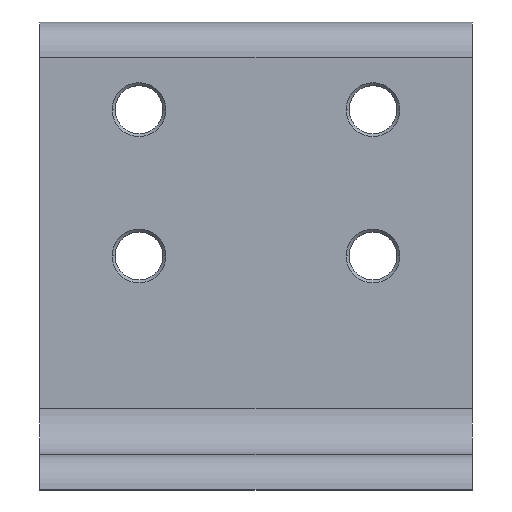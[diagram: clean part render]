
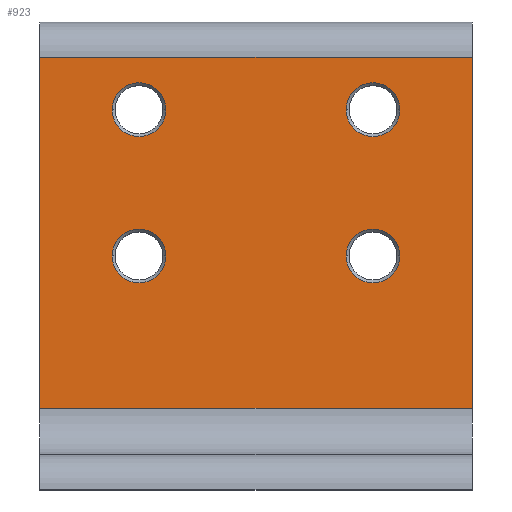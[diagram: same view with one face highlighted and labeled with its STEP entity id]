
A CAD part, top view. The second image highlights one B-rep face of the part: STEP entity #923.
In plain terms, the highlighted planar face has unit normal (0, 0, 1).
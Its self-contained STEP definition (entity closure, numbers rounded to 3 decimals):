
#11 = CARTESIAN_POINT ( 'NONE',  ( 37., 80., -14. ) ) ;
#12 = ORIENTED_EDGE ( 'NONE', *, *, #1135, .T. ) ;
#14 = DIRECTION ( 'NONE',  ( 0., 0., -1. ) ) ;
#19 = DIRECTION ( 'NONE',  ( 0., -1., 0. ) ) ;
#27 = CARTESIAN_POINT ( 'NONE',  ( 37., 14., -14. ) ) ;
#39 = CARTESIAN_POINT ( 'NONE',  ( -24.6, 40., -14. ) ) ;
#65 = CARTESIAN_POINT ( 'NONE',  ( -20., 40., -14. ) ) ;
#71 = EDGE_CURVE ( 'NONE', #300, #986, #881, .T. ) ;
#74 = CARTESIAN_POINT ( 'NONE',  ( -15.4, 40., -14. ) ) ;
#79 = CARTESIAN_POINT ( 'NONE',  ( -37., 80., -14. ) ) ;
#89 = LINE ( 'NONE', #79, #321 ) ;
#92 = AXIS2_PLACEMENT_3D ( 'NONE', #957, #324, #1057 ) ;
#102 = DIRECTION ( 'NONE',  ( -1., 0., 0. ) ) ;
#122 = CARTESIAN_POINT ( 'NONE',  ( 15.4, 40., -14. ) ) ;
#130 = DIRECTION ( 'NONE',  ( 0., 0., -1. ) ) ;
#155 = ORIENTED_EDGE ( 'NONE', *, *, #429, .T. ) ;
#168 = DIRECTION ( 'NONE',  ( -1., 0., 0. ) ) ;
#212 = CARTESIAN_POINT ( 'NONE',  ( -37., 74., -14. ) ) ;
#238 = CARTESIAN_POINT ( 'NONE',  ( 24.6, 40., -14. ) ) ;
#251 = ORIENTED_EDGE ( 'NONE', *, *, #789, .T. ) ;
#255 = EDGE_LOOP ( 'NONE', ( #12, #396 ) ) ;
#260 = EDGE_CURVE ( 'NONE', #862, #667, #671, .T. ) ;
#294 = CIRCLE ( 'NONE', #990, 4.6 ) ;
#300 = VERTEX_POINT ( 'NONE', #122 ) ;
#316 = EDGE_LOOP ( 'NONE', ( #1256, #251 ) ) ;
#320 = ORIENTED_EDGE ( 'NONE', *, *, #1028, .T. ) ;
#321 = VECTOR ( 'NONE', #938, 1000. ) ;
#324 = DIRECTION ( 'NONE',  ( 0., 0., -1. ) ) ;
#337 = CARTESIAN_POINT ( 'NONE',  ( -37., 14., -14. ) ) ;
#356 = VERTEX_POINT ( 'NONE', #74 ) ;
#360 = AXIS2_PLACEMENT_3D ( 'NONE', #1216, #579, #1321 ) ;
#375 = AXIS2_PLACEMENT_3D ( 'NONE', #715, #1355, #1139 ) ;
#396 = ORIENTED_EDGE ( 'NONE', *, *, #71, .T. ) ;
#403 = EDGE_CURVE ( 'NONE', #356, #1006, #294, .T. ) ;
#411 = CARTESIAN_POINT ( 'NONE',  ( 24.6, 65., -14. ) ) ;
#415 = CIRCLE ( 'NONE', #570, 4.6 ) ;
#416 = CARTESIAN_POINT ( 'NONE',  ( 15.4, 65., -14. ) ) ;
#428 = VECTOR ( 'NONE', #788, 1000. ) ;
#429 = EDGE_CURVE ( 'NONE', #778, #1356, #1362, .T. ) ;
#434 = CARTESIAN_POINT ( 'NONE',  ( -37., 80., -14. ) ) ;
#461 = FACE_BOUND ( 'NONE', #255, .T. ) ;
#500 = ORIENTED_EDGE ( 'NONE', *, *, #1218, .T. ) ;
#510 = CARTESIAN_POINT ( 'NONE',  ( -20., 40., -14. ) ) ;
#532 = VERTEX_POINT ( 'NONE', #907 ) ;
#542 = VERTEX_POINT ( 'NONE', #1004 ) ;
#552 = AXIS2_PLACEMENT_3D ( 'NONE', #774, #130, #883 ) ;
#570 = AXIS2_PLACEMENT_3D ( 'NONE', #510, #1255, #628 ) ;
#579 = DIRECTION ( 'NONE',  ( 0., 0., -1. ) ) ;
#580 = ORIENTED_EDGE ( 'NONE', *, *, #900, .F. ) ;
#608 = CARTESIAN_POINT ( 'NONE',  ( 20., 65., -14. ) ) ;
#622 = EDGE_CURVE ( 'NONE', #542, #532, #927, .T. ) ;
#628 = DIRECTION ( 'NONE',  ( -1., 0., 0. ) ) ;
#638 = EDGE_LOOP ( 'NONE', ( #580, #500, #1085, #1351 ) ) ;
#639 = DIRECTION ( 'NONE',  ( 0., 0., -1. ) ) ;
#657 = PLANE ( 'NONE',  #1094 ) ;
#667 = VERTEX_POINT ( 'NONE', #27 ) ;
#671 = LINE ( 'NONE', #675, #428 ) ;
#675 = CARTESIAN_POINT ( 'NONE',  ( -37., 14., -14. ) ) ;
#705 = DIRECTION ( 'NONE',  ( -1., 0., 0. ) ) ;
#715 = CARTESIAN_POINT ( 'NONE',  ( 20., 40., -14. ) ) ;
#722 = LINE ( 'NONE', #212, #1254 ) ;
#743 = FACE_BOUND ( 'NONE', #316, .T. ) ;
#760 = DIRECTION ( 'NONE',  ( -1., 0., 0. ) ) ;
#762 = ORIENTED_EDGE ( 'NONE', *, *, #403, .T. ) ;
#774 = CARTESIAN_POINT ( 'NONE',  ( -20., 65., -14. ) ) ;
#778 = VERTEX_POINT ( 'NONE', #416 ) ;
#780 = FACE_BOUND ( 'NONE', #1002, .T. ) ;
#788 = DIRECTION ( 'NONE',  ( 1., 0., 0. ) ) ;
#789 = EDGE_CURVE ( 'NONE', #532, #542, #803, .T. ) ;
#794 = ORIENTED_EDGE ( 'NONE', *, *, #1099, .T. ) ;
#803 = CIRCLE ( 'NONE', #92, 4.6 ) ;
#810 = DIRECTION ( 'NONE',  ( 0., 0., -1. ) ) ;
#862 = VERTEX_POINT ( 'NONE', #337 ) ;
#881 = CIRCLE ( 'NONE', #375, 4.6 ) ;
#883 = DIRECTION ( 'NONE',  ( -1., 0., 0. ) ) ;
#898 = CIRCLE ( 'NONE', #360, 4.6 ) ;
#900 = EDGE_CURVE ( 'NONE', #1034, #667, #1344, .T. ) ;
#907 = CARTESIAN_POINT ( 'NONE',  ( -24.6, 65., -14. ) ) ;
#923 = ADVANCED_FACE ( 'NONE', ( #780, #461, #1311, #743, #1273 ), #657, .F. ) ;
#927 = CIRCLE ( 'NONE', #552, 4.6 ) ;
#938 = DIRECTION ( 'NONE',  ( 0., -1., 0. ) ) ;
#942 = VERTEX_POINT ( 'NONE', #976 ) ;
#957 = CARTESIAN_POINT ( 'NONE',  ( -20., 65., -14. ) ) ;
#976 = CARTESIAN_POINT ( 'NONE',  ( -37., 74., -14. ) ) ;
#986 = VERTEX_POINT ( 'NONE', #238 ) ;
#990 = AXIS2_PLACEMENT_3D ( 'NONE', #65, #810, #168 ) ;
#997 = AXIS2_PLACEMENT_3D ( 'NONE', #1266, #639, #1377 ) ;
#1002 = EDGE_LOOP ( 'NONE', ( #762, #794 ) ) ;
#1004 = CARTESIAN_POINT ( 'NONE',  ( -15.4, 65., -14. ) ) ;
#1006 = VERTEX_POINT ( 'NONE', #39 ) ;
#1028 = EDGE_CURVE ( 'NONE', #1356, #778, #898, .T. ) ;
#1031 = CIRCLE ( 'NONE', #997, 4.6 ) ;
#1034 = VERTEX_POINT ( 'NONE', #1105 ) ;
#1050 = AXIS2_PLACEMENT_3D ( 'NONE', #608, #1346, #705 ) ;
#1056 = VECTOR ( 'NONE', #19, 1000. ) ;
#1057 = DIRECTION ( 'NONE',  ( -1., 0., 0. ) ) ;
#1085 = ORIENTED_EDGE ( 'NONE', *, *, #1305, .T. ) ;
#1094 = AXIS2_PLACEMENT_3D ( 'NONE', #434, #14, #760 ) ;
#1099 = EDGE_CURVE ( 'NONE', #1006, #356, #415, .T. ) ;
#1105 = CARTESIAN_POINT ( 'NONE',  ( 37., 74., -14. ) ) ;
#1135 = EDGE_CURVE ( 'NONE', #986, #300, #1031, .T. ) ;
#1139 = DIRECTION ( 'NONE',  ( -1., 0., 0. ) ) ;
#1148 = EDGE_LOOP ( 'NONE', ( #320, #155 ) ) ;
#1216 = CARTESIAN_POINT ( 'NONE',  ( 20., 65., -14. ) ) ;
#1218 = EDGE_CURVE ( 'NONE', #1034, #942, #722, .T. ) ;
#1254 = VECTOR ( 'NONE', #102, 1000. ) ;
#1255 = DIRECTION ( 'NONE',  ( 0., 0., -1. ) ) ;
#1256 = ORIENTED_EDGE ( 'NONE', *, *, #622, .T. ) ;
#1266 = CARTESIAN_POINT ( 'NONE',  ( 20., 40., -14. ) ) ;
#1273 = FACE_OUTER_BOUND ( 'NONE', #638, .T. ) ;
#1305 = EDGE_CURVE ( 'NONE', #942, #862, #89, .T. ) ;
#1311 = FACE_BOUND ( 'NONE', #1148, .T. ) ;
#1321 = DIRECTION ( 'NONE',  ( -1., 0., 0. ) ) ;
#1344 = LINE ( 'NONE', #11, #1056 ) ;
#1346 = DIRECTION ( 'NONE',  ( 0., 0., -1. ) ) ;
#1351 = ORIENTED_EDGE ( 'NONE', *, *, #260, .T. ) ;
#1355 = DIRECTION ( 'NONE',  ( 0., 0., -1. ) ) ;
#1356 = VERTEX_POINT ( 'NONE', #411 ) ;
#1362 = CIRCLE ( 'NONE', #1050, 4.6 ) ;
#1377 = DIRECTION ( 'NONE',  ( -1., 0., 0. ) ) ;
